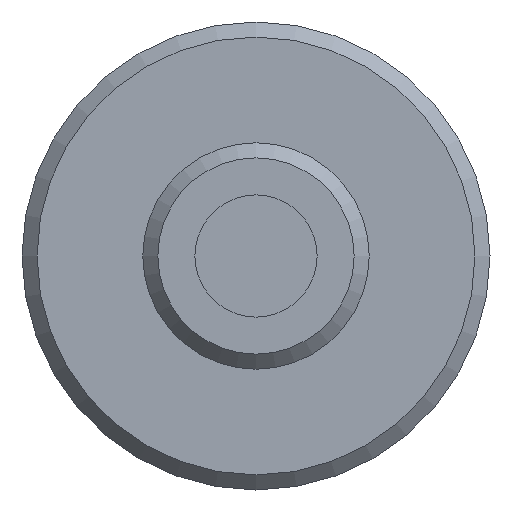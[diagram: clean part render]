
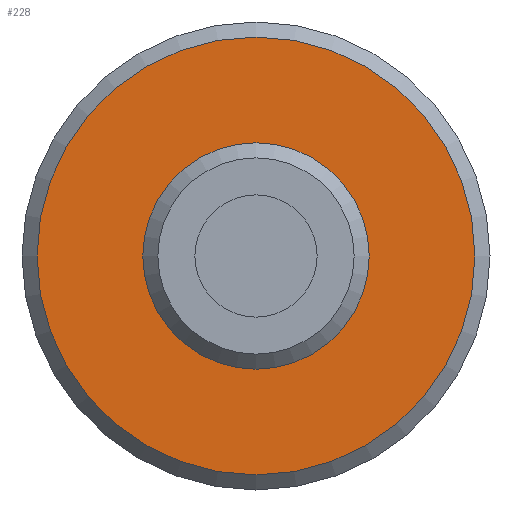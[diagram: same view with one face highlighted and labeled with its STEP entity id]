
A CAD part, front view. The second image highlights one B-rep face of the part: STEP entity #228.
In plain terms, the highlighted planar face has unit normal (0, -1, 0).
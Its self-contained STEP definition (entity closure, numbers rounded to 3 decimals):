
#25=FACE_BOUND('',#60,.T.);
#27=PLANE('',#268);
#38=FACE_OUTER_BOUND('',#59,.T.);
#59=EDGE_LOOP('',(#168));
#60=EDGE_LOOP('',(#169));
#101=CIRCLE('',#266,7.5);
#103=CIRCLE('',#269,14.5);
#119=VERTEX_POINT('',#396);
#121=VERTEX_POINT('',#402);
#136=EDGE_CURVE('',#119,#119,#101,.T.);
#139=EDGE_CURVE('',#121,#121,#103,.T.);
#168=ORIENTED_EDGE('',*,*,#139,.F.);
#169=ORIENTED_EDGE('',*,*,#136,.T.);
#228=ADVANCED_FACE('',(#38,#25),#27,.T.);
#266=AXIS2_PLACEMENT_3D('',#397,#308,#309);
#268=AXIS2_PLACEMENT_3D('',#401,#313,#314);
#269=AXIS2_PLACEMENT_3D('',#403,#315,#316);
#308=DIRECTION('center_axis',(0.,1.,0.));
#309=DIRECTION('ref_axis',(1.,0.,0.));
#313=DIRECTION('center_axis',(0.,-1.,0.));
#314=DIRECTION('ref_axis',(0.,0.,-1.));
#315=DIRECTION('center_axis',(0.,1.,0.));
#316=DIRECTION('ref_axis',(1.,0.,0.));
#396=CARTESIAN_POINT('',(0.,20.,-7.5));
#397=CARTESIAN_POINT('Origin',(0.,20.,0.));
#401=CARTESIAN_POINT('Origin',(0.,20.,14.5));
#402=CARTESIAN_POINT('',(0.,20.,-14.5));
#403=CARTESIAN_POINT('Origin',(0.,20.,0.));
